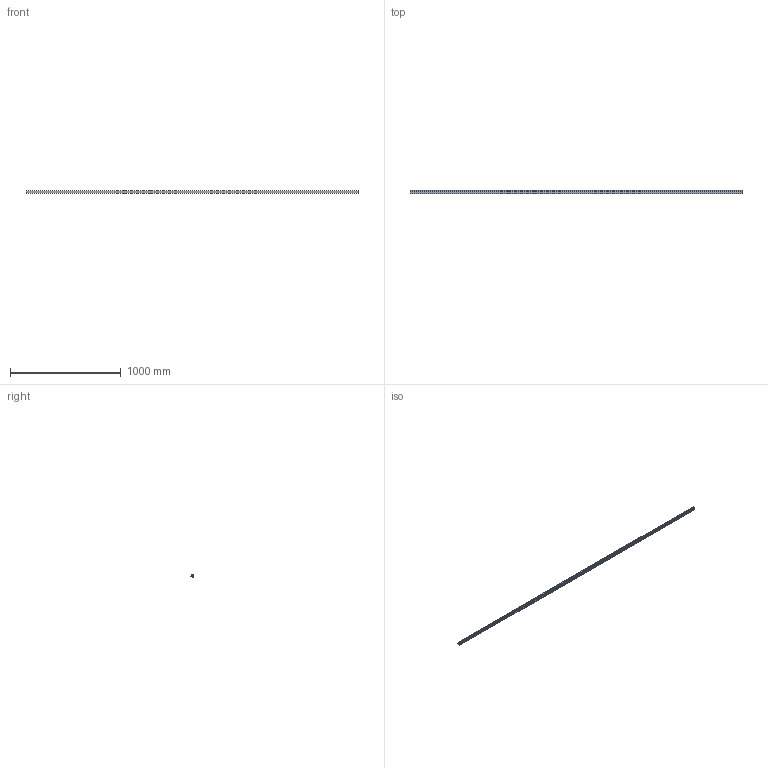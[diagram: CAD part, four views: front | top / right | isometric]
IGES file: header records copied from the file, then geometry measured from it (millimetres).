
Start section: Data from Parasolid IGES Translator 20.0.26, Copyright(c) 2006 Siemens P LM Software. All Rights Reserved.
Global section: file name: 9298798.igs; native system: By Siemens PLM Incorporated; preprocessor: XPlus GENERIC/IGES 20.0.26; author: Noname; organization: Noname; date: 20210826.181332; units: millimetre
Bounding box: 3000 x 30.5 x 25 mm (x, y, z)
Surface area: 625730.1 mm2 (no closed solid volume)
Topology: 0 solids, 0 shells, 58 faces, 336 edges, 336 vertices
Faces by surface type: extrusion 58
